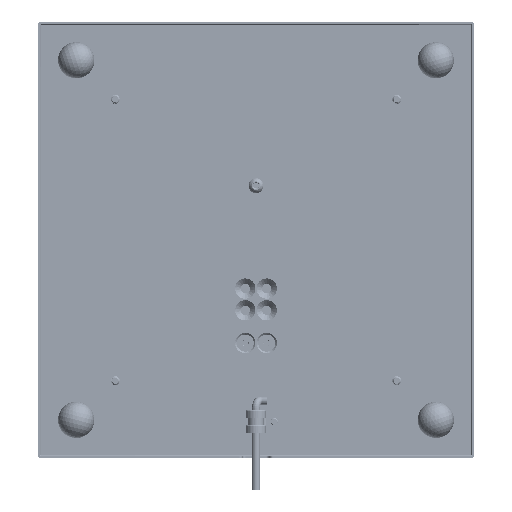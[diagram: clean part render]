
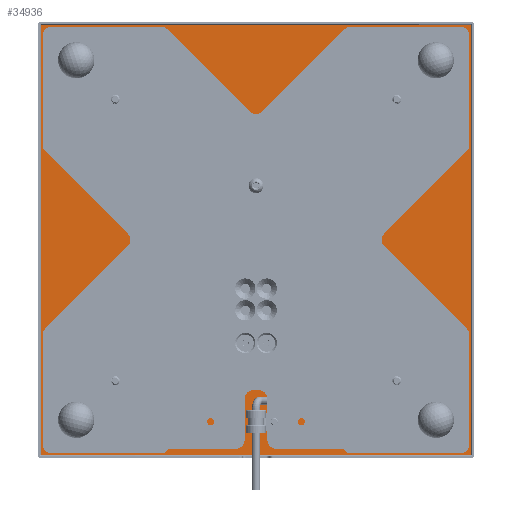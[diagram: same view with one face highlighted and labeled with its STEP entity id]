
A CAD part, front view. The second image highlights one B-rep face of the part: STEP entity #34936.
In plain terms, the highlighted planar face has unit normal (0, -1, 0).
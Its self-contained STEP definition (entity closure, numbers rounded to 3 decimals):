
#8641 = CARTESIAN_POINT ( 'NONE',  ( -5.911, -0.06, 5.91 ) ) ;
#8970 = CARTESIAN_POINT ( 'NONE',  ( 5.919, -0.059, -5.911 ) ) ;
#12793 = EDGE_LOOP ( 'NONE', ( #126436, #195692, #52985, #149928 ) ) ;
#13087 = CARTESIAN_POINT ( 'NONE',  ( -5.911, -0.06, -5.919 ) ) ;
#13878 = AXIS2_PLACEMENT_3D ( 'NONE', #167572, #54582, #73211 ) ;
#16343 = DIRECTION ( 'NONE',  ( 1., 0., 0. ) ) ;
#34936 = ADVANCED_FACE ( 'NONE', ( #171236 ), #228356, .F. ) ;
#38534 = EDGE_CURVE ( 'NONE', #245199, #239614, #140651, .T. ) ;
#48470 = EDGE_CURVE ( 'NONE', #177786, #218608, #244807, .T. ) ;
#52985 = ORIENTED_EDGE ( 'NONE', *, *, #226168, .F. ) ;
#53411 = VECTOR ( 'NONE', #16343, 39.37 ) ;
#54582 = DIRECTION ( 'NONE',  ( 0., 1., 0. ) ) ;
#63136 = DIRECTION ( 'NONE',  ( 0., 0., 1. ) ) ;
#65751 = VECTOR ( 'NONE', #63136, 39.37 ) ;
#73211 = DIRECTION ( 'NONE',  ( 0., 0., 1. ) ) ;
#85109 = LINE ( 'NONE', #216709, #233442 ) ;
#86393 = LINE ( 'NONE', #13087, #65751 ) ;
#96267 = VECTOR ( 'NONE', #236234, 39.37 ) ;
#118684 = DIRECTION ( 'NONE',  ( 0., 0., -1. ) ) ;
#126436 = ORIENTED_EDGE ( 'NONE', *, *, #157504, .F. ) ;
#140651 = LINE ( 'NONE', #8970, #96267 ) ;
#146788 = CARTESIAN_POINT ( 'NONE',  ( -5.919, -0.059, 5.91 ) ) ;
#149928 = ORIENTED_EDGE ( 'NONE', *, *, #48470, .F. ) ;
#157504 = EDGE_CURVE ( 'NONE', #239614, #177786, #86393, .T. ) ;
#166357 = CARTESIAN_POINT ( 'NONE',  ( -5.911, -0.06, -5.91 ) ) ;
#167572 = CARTESIAN_POINT ( 'NONE',  ( 0., -0.059, 0. ) ) ;
#171236 = FACE_OUTER_BOUND ( 'NONE', #12793, .T. ) ;
#177786 = VERTEX_POINT ( 'NONE', #8641 ) ;
#195692 = ORIENTED_EDGE ( 'NONE', *, *, #38534, .F. ) ;
#216709 = CARTESIAN_POINT ( 'NONE',  ( 5.91, -0.06, 5.919 ) ) ;
#217592 = CARTESIAN_POINT ( 'NONE',  ( 5.91, -0.059, 5.91 ) ) ;
#218608 = VERTEX_POINT ( 'NONE', #217592 ) ;
#226168 = EDGE_CURVE ( 'NONE', #218608, #245199, #85109, .T. ) ;
#228356 = PLANE ( 'NONE',  #13878 ) ;
#233442 = VECTOR ( 'NONE', #118684, 39.37 ) ;
#236234 = DIRECTION ( 'NONE',  ( -1., 0., 0. ) ) ;
#239614 = VERTEX_POINT ( 'NONE', #166357 ) ;
#242204 = CARTESIAN_POINT ( 'NONE',  ( 5.91, -0.059, -5.911 ) ) ;
#244807 = LINE ( 'NONE', #146788, #53411 ) ;
#245199 = VERTEX_POINT ( 'NONE', #242204 ) ;
